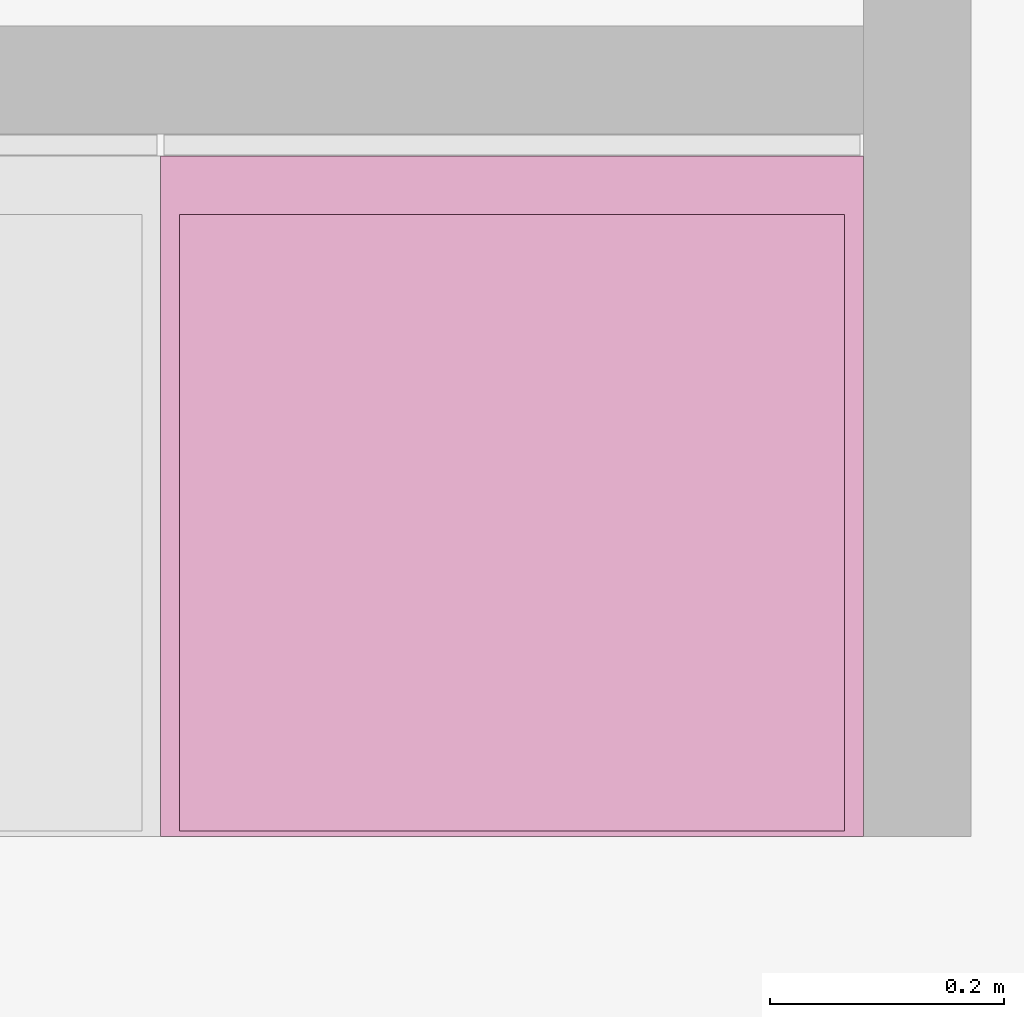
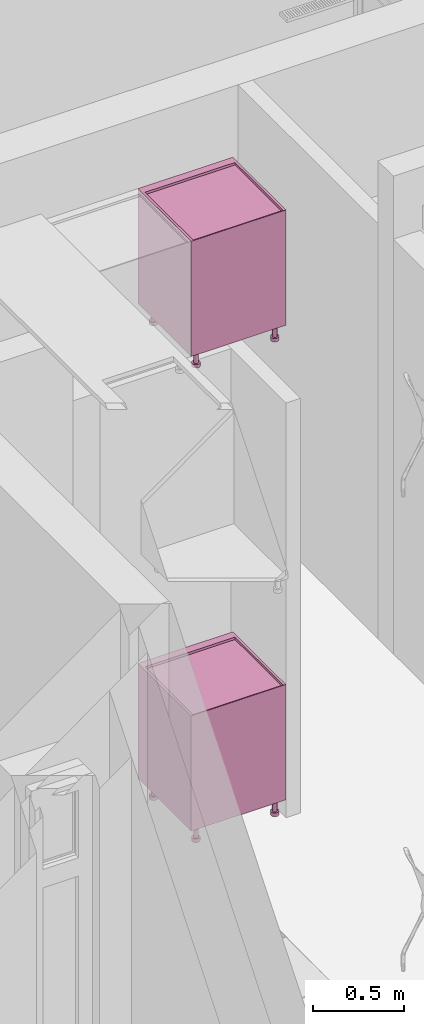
# One storey, part 61 of 125: 2 furnishings.
"""IFC2X3 building model written with IfcOpenShell, lengths in millimetres."""

from ifc_helpers import new_model, entity, si_unit, converted_unit, direction, frame, origin, place, context, subcontext, project, spatial, faceted_brep, source, transform, mapped, material, type_object, type_shapes, element, save


model = new_model("IFC2X3")

# Units and contexts
model_context = context("Model", 3, precision=0.01, world=origin(), true_north=direction((6.123233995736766e-17, 1.0)))
plan_context = context("Plan", 3, precision=0.01, world=origin(), true_north=direction((6.123233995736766e-17, 1.0)))
body_context = subcontext(model_context, "Body", "Model", "MODEL_VIEW")
ifc_project = project(units=[si_unit("LENGTHUNIT", "METRE", prefix="MILLI"), converted_unit("PLANEANGLEUNIT", "DEGREE", entity("IfcPlaneAngleMeasure", 0.017453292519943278), si_unit("PLANEANGLEUNIT", "RADIAN"), dimensions=[0, 0, 0, 0, 0, 0, 0]), si_unit("AREAUNIT", "SQUARE_METRE")], contexts=[model_context, plan_context])

# Site, building, storey, space
site_placement = place(None, origin())
site = spatial("IfcSite", under=ifc_project, at=site_placement, Name="Default", CompositionType="ELEMENT")
building_placement = place(site_placement, origin())
building = spatial("IfcBuilding", under=site, at=building_placement, CompositionType="ELEMENT")
storey_placement = place(building_placement, frame((0.0, 0.0, 3125.0)))
storey = spatial("IfcBuildingStorey", under=building, at=storey_placement, Name="2K", CompositionType="ELEMENT", Elevation=3125.0)
space_placement = place(storey_placement, origin())
space = spatial("IfcSpace", under=storey, at=space_placement, Name="2-4.2", CompositionType="ELEMENT", InteriorOrExteriorSpace="INTERNAL")

# Furnishings
ifc_material = material(Name="<Unnamed>")
furniture_type = type_object("IfcFurnitureType", Name="HR_Casework_Kitchen_Generic_Appliance_v1:Fridge", AssemblyPlace="NOTDEFINED", material=ifc_material)
shared_shape = source(origin(), body_context, "Body", "Brep", [
    faceted_brep([(305.7003264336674, -585.7846096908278, -3101.0), (310.6708891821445, -581.9705627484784, -3101.0), (300.70032643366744, -577.1243556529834, -3101.0), (297.32379306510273, -578.5229615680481, -3101.0), (299.91198351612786, -588.1822198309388, -3101.0), (303.59982137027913, -574.8994949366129, -3101.0), (314.4849361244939, -577.0, -3101.0), (305.82468208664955, -572.0, -3101.0), (307.2232880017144, -568.6234666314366, -3101.0), (316.8825462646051, -571.2116570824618, -3101.0), (307.70032643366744, -565.0, -3101.0), (317.7003264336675, -565.0, -3101.0), (307.2232880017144, -561.3765333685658, -3101.0), (316.88254626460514, -558.7883429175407, -3101.0), (305.82468208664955, -558.0, -3101.0), (314.484936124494, -553.0, -3101.0), (303.59982137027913, -555.1005050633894, -3101.0), (310.67088918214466, -548.0294372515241, -3101.0), (300.70032643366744, -552.875644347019, -3101.0), (305.7003264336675, -544.2153903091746, -3101.0), (297.32379306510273, -551.4770384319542, -3101.0), (299.91198351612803, -541.8177801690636, -3101.0), (293.7003264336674, -551.0, -3101.0), (293.70032643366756, -541.0, -3101.0), (290.07685980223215, -551.4770384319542, -3101.0), (287.488669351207, -541.8177801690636, -3101.0), (286.70032643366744, -552.875644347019, -3101.0), (281.7003264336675, -544.2153903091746, -3101.0), (283.80083149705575, -555.1005050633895, -3101.0), (276.7297636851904, -548.029437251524, -3101.0), (281.5759707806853, -558.0, -3101.0), (272.91571674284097, -553.0, -3101.0), (270.51810660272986, -558.7883429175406, -3101.0), (280.1773648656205, -561.3765333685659, -3101.0), (269.7003264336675, -565.0, -3101.0), (279.7003264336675, -565.0, -3101.0), (270.51810660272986, -571.2116570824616, -3101.0), (280.1773648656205, -568.6234666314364, -3101.0), (272.9157167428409, -577.0, -3101.0), (281.57597078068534, -572.0, -3101.0), (276.7297636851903, -581.9705627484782, -3101.0), (283.80083149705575, -574.8994949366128, -3101.0), (281.70032643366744, -585.7846096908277, -3101.0), (286.70032643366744, -577.1243556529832, -3101.0), (287.4886693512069, -588.1822198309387, -3101.0), (290.07685980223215, -578.5229615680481, -3101.0), (293.7003264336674, -589.0, -3101.0), (293.70032643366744, -579.0, -3101.0), (299.91198351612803, -541.8177801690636, -3125.0), (305.7003264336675, -544.2153903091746, -3125.0), (310.67088918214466, -548.0294372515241, -3125.0), (314.484936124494, -553.0, -3125.0), (316.88254626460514, -558.7883429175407, -3125.0), (317.7003264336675, -565.0, -3125.0), (316.8825462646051, -571.2116570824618, -3125.0), (314.4849361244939, -577.0, -3125.0), (310.6708891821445, -581.9705627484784, -3125.0), (305.7003264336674, -585.7846096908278, -3125.0), (299.91198351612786, -588.1822198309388, -3125.0), (293.7003264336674, -589.0, -3125.0), (287.4886693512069, -588.1822198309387, -3125.0), (281.70032643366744, -585.7846096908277, -3125.0), (276.7297636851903, -581.9705627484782, -3125.0), (272.9157167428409, -577.0, -3125.0), (270.51810660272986, -571.2116570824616, -3125.0), (269.7003264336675, -565.0, -3125.0), (270.51810660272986, -558.7883429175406, -3125.0), (272.91571674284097, -553.0, -3125.0), (276.7297636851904, -548.029437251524, -3125.0), (281.7003264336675, -544.2153903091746, -3125.0), (287.488669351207, -541.8177801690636, -3125.0), (293.70032643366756, -541.0, -3125.0), (297.32379306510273, -578.5229615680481, -3025.0), (300.70032643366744, -577.1243556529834, -3025.0), (303.59982137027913, -574.8994949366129, -3025.0), (305.8246820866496, -572.0, -3025.0), (307.2232880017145, -568.6234666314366, -3025.0), (307.70032643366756, -565.0, -3025.0), (307.2232880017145, -561.3765333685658, -3025.0), (305.8246820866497, -558.0, -3025.0), (303.5998213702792, -555.1005050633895, -3025.0), (300.70032643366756, -552.875644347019, -3025.0), (297.32379306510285, -551.4770384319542, -3025.0), (293.70032643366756, -551.0, -3025.0), (290.07685980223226, -551.4770384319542, -3025.0), (286.70032643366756, -552.875644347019, -3025.0), (283.80083149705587, -555.1005050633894, -3025.0), (281.5759707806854, -558.0, -3025.0), (280.1773648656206, -561.3765333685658, -3025.0), (279.70032643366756, -565.0, -3025.0), (280.1773648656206, -568.6234666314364, -3025.0), (281.5759707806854, -572.0, -3025.0), (283.8008314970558, -574.8994949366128, -3025.0), (286.7003264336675, -577.1243556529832, -3025.0), (290.07685980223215, -578.5229615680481, -3025.0), (293.70032643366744, -579.0, -3025.0)], [[[0, 1, 2]], [[0, 2, 3]], [[3, 4, 0]], [[2, 1, 5]], [[6, 5, 1]], [[7, 5, 6]], [[8, 7, 6]], [[8, 6, 9]], [[8, 9, 10]], [[10, 9, 11]], [[12, 10, 11]], [[12, 11, 13]], [[14, 12, 13]], [[14, 13, 15]], [[16, 14, 15]], [[15, 17, 16]], [[17, 18, 16]], [[18, 17, 19]], [[18, 19, 20]], [[21, 20, 19]], [[20, 21, 22]], [[22, 21, 23]], [[23, 24, 22]], [[24, 23, 25]], [[24, 25, 26]], [[27, 26, 25]], [[27, 28, 26]], [[27, 29, 28]], [[30, 28, 29]], [[31, 30, 29]], [[32, 30, 31]], [[33, 30, 32]], [[33, 32, 34]], [[34, 35, 33]], [[36, 35, 34]], [[36, 37, 35]], [[37, 36, 38]], [[39, 37, 38]], [[39, 38, 40]], [[39, 40, 41]], [[40, 42, 41]], [[41, 42, 43]], [[43, 42, 44]], [[44, 45, 43]], [[46, 45, 44]], [[4, 47, 46]], [[45, 46, 47]], [[4, 3, 47]], [[48, 49, 50, 51, 52, 53, 54, 55, 56, 57, 58, 59, 60, 61, 62, 63, 64, 65, 66, 67, 68, 69, 70, 71]], [[64, 36, 34, 65]], [[63, 38, 36, 64]], [[42, 40, 62, 61]], [[63, 62, 40, 38]], [[44, 42, 61, 60]], [[46, 44, 60, 59]], [[58, 4, 46, 59]], [[57, 0, 4, 58]], [[54, 53, 11, 9]], [[1, 0, 57, 56]], [[6, 55, 54, 9]], [[6, 1, 56, 55]], [[52, 13, 11, 53]], [[51, 15, 13, 52]], [[19, 17, 50, 49]], [[51, 50, 17, 15]], [[21, 19, 49, 48]], [[23, 21, 48, 71]], [[27, 69, 68, 29]], [[31, 67, 66, 32]], [[68, 67, 31, 29]], [[32, 66, 65, 34]], [[25, 70, 69, 27]], [[70, 25, 23, 71]], [[72, 73, 74, 75, 76, 77, 78, 79, 80, 81, 82, 83, 84, 85, 86, 87, 88, 89, 90, 91, 92, 93, 94, 95]], [[37, 39, 91, 90]], [[35, 37, 90, 89]], [[43, 45, 94, 93]], [[41, 43, 93, 92]], [[39, 41, 92, 91]], [[47, 95, 94, 45]], [[2, 5, 74, 73]], [[3, 2, 73, 72]], [[8, 10, 77, 76]], [[7, 8, 76, 75]], [[5, 7, 75, 74]], [[3, 72, 95, 47]], [[79, 78, 12, 14]], [[78, 77, 10, 12]], [[80, 16, 18, 81]], [[16, 80, 79, 14]], [[81, 18, 20, 82]], [[22, 83, 82, 20]], [[26, 28, 86, 85]], [[24, 26, 85, 84]], [[33, 35, 89, 88]], [[30, 33, 88, 87]], [[28, 30, 87, 86]], [[24, 84, 83, 22]]]),
    faceted_brep([(-192.29967356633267, -585.7846096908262, -3101.0), (-187.3291108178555, -581.9705627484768, -3101.0), (-197.29967356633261, -577.1243556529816, -3101.0), (-200.67620693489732, -578.5229615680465, -3101.0), (-198.08801648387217, -588.1822198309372, -3101.0), (-194.40017862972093, -574.8994949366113, -3101.0), (-183.51506387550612, -577.0, -3101.0), (-192.17531791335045, -572.0, -3101.0), (-190.77671199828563, -568.6234666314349, -3101.0), (-181.11745373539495, -571.2116570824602, -3101.0), (-190.29967356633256, -565.0, -3101.0), (-180.29967356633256, -565.0, -3101.0), (-190.77671199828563, -561.3765333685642, -3101.0), (-181.11745373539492, -558.788342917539, -3101.0), (-192.17531791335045, -558.0, -3101.0), (-183.515063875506, -553.0, -3101.0), (-194.40017862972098, -555.1005050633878, -3101.0), (-187.3291108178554, -548.0294372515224, -3101.0), (-197.29967356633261, -552.8756443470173, -3101.0), (-192.29967356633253, -544.215390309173, -3101.0), (-200.67620693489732, -551.4770384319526, -3101.0), (-198.08801648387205, -541.8177801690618, -3101.0), (-204.29967356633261, -551.0, -3101.0), (-204.29967356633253, -541.0, -3101.0), (-207.92314019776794, -551.4770384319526, -3101.0), (-210.51133064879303, -541.8177801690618, -3101.0), (-211.29967356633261, -552.8756443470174, -3101.0), (-216.29967356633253, -544.215390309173, -3101.0), (-214.19916850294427, -555.1005050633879, -3101.0), (-221.27023631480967, -548.0294372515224, -3101.0), (-216.42402921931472, -558.0, -3101.0), (-225.08428325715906, -553.0, -3101.0), (-227.48189339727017, -558.788342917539, -3101.0), (-217.8226351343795, -561.3765333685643, -3101.0), (-228.2996735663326, -565.0, -3101.0), (-218.29967356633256, -565.0, -3101.0), (-227.48189339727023, -571.21165708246, -3101.0), (-217.8226351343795, -568.6234666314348, -3101.0), (-225.08428325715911, -577.0, -3101.0), (-216.42402921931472, -572.0, -3101.0), (-221.27023631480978, -581.9705627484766, -3101.0), (-214.19916850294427, -574.8994949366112, -3101.0), (-216.29967356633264, -585.784609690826, -3101.0), (-211.29967356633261, -577.1243556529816, -3101.0), (-210.51133064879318, -588.1822198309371, -3101.0), (-207.9231401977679, -578.5229615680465, -3101.0), (-204.2996735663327, -589.0, -3101.0), (-204.29967356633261, -579.0, -3101.0), (-198.08801648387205, -541.8177801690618, -3125.0), (-192.29967356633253, -544.215390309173, -3125.0), (-187.3291108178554, -548.0294372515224, -3125.0), (-183.515063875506, -553.0, -3125.0), (-181.11745373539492, -558.788342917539, -3125.0), (-180.29967356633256, -565.0, -3125.0), (-181.11745373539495, -571.2116570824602, -3125.0), (-183.51506387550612, -577.0, -3125.0), (-187.3291108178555, -581.9705627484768, -3125.0), (-192.29967356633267, -585.7846096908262, -3125.0), (-198.08801648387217, -588.1822198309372, -3125.0), (-204.2996735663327, -589.0, -3125.0), (-210.51133064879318, -588.1822198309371, -3125.0), (-216.29967356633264, -585.784609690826, -3125.0), (-221.27023631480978, -581.9705627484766, -3125.0), (-225.08428325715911, -577.0, -3125.0), (-227.48189339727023, -571.21165708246, -3125.0), (-228.2996735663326, -565.0, -3125.0), (-227.48189339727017, -558.788342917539, -3125.0), (-225.08428325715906, -553.0, -3125.0), (-221.27023631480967, -548.0294372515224, -3125.0), (-216.29967356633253, -544.215390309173, -3125.0), (-210.51133064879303, -541.8177801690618, -3125.0), (-204.29967356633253, -541.0, -3125.0), (-200.67620693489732, -578.5229615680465, -3025.0), (-197.29967356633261, -577.1243556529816, -3025.0), (-194.40017862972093, -574.8994949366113, -3025.0), (-192.17531791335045, -572.0, -3025.0), (-190.77671199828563, -568.6234666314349, -3025.0), (-190.29967356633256, -565.0, -3025.0), (-190.77671199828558, -561.3765333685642, -3025.0), (-192.1753179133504, -558.0, -3025.0), (-194.40017862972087, -555.1005050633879, -3025.0), (-197.29967356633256, -552.8756443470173, -3025.0), (-200.67620693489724, -551.4770384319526, -3025.0), (-204.29967356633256, -551.0, -3025.0), (-207.92314019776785, -551.4770384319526, -3025.0), (-211.29967356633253, -552.8756443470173, -3025.0), (-214.1991685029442, -555.1005050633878, -3025.0), (-216.4240292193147, -558.0, -3025.0), (-217.8226351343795, -561.3765333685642, -3025.0), (-218.29967356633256, -565.0, -3025.0), (-217.8226351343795, -568.6234666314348, -3025.0), (-216.42402921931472, -572.0, -3025.0), (-214.19916850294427, -574.8994949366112, -3025.0), (-211.2996735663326, -577.1243556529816, -3025.0), (-207.9231401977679, -578.5229615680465, -3025.0), (-204.29967356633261, -579.0, -3025.0)], [[[0, 1, 2]], [[0, 2, 3]], [[3, 4, 0]], [[2, 1, 5]], [[6, 5, 1]], [[7, 5, 6]], [[8, 7, 6]], [[8, 6, 9]], [[8, 9, 10]], [[10, 9, 11]], [[12, 10, 11]], [[12, 11, 13]], [[14, 12, 13]], [[14, 13, 15]], [[16, 14, 15]], [[15, 17, 16]], [[17, 18, 16]], [[18, 17, 19]], [[18, 19, 20]], [[21, 20, 19]], [[20, 21, 22]], [[22, 21, 23]], [[23, 24, 22]], [[24, 23, 25]], [[24, 25, 26]], [[27, 26, 25]], [[27, 28, 26]], [[27, 29, 28]], [[30, 28, 29]], [[31, 30, 29]], [[32, 30, 31]], [[33, 30, 32]], [[33, 32, 34]], [[34, 35, 33]], [[36, 35, 34]], [[36, 37, 35]], [[37, 36, 38]], [[39, 37, 38]], [[39, 38, 40]], [[39, 40, 41]], [[40, 42, 41]], [[41, 42, 43]], [[43, 42, 44]], [[44, 45, 43]], [[46, 45, 44]], [[4, 47, 46]], [[45, 46, 47]], [[4, 3, 47]], [[48, 49, 50, 51, 52, 53, 54, 55, 56, 57, 58, 59, 60, 61, 62, 63, 64, 65, 66, 67, 68, 69, 70, 71]], [[64, 36, 34, 65]], [[63, 38, 36, 64]], [[42, 40, 62, 61]], [[63, 62, 40, 38]], [[44, 42, 61, 60]], [[46, 44, 60, 59]], [[58, 4, 46, 59]], [[57, 0, 4, 58]], [[54, 53, 11, 9]], [[1, 0, 57, 56]], [[6, 55, 54, 9]], [[6, 1, 56, 55]], [[52, 13, 11, 53]], [[51, 15, 13, 52]], [[19, 17, 50, 49]], [[51, 50, 17, 15]], [[21, 19, 49, 48]], [[23, 21, 48, 71]], [[27, 69, 68, 29]], [[31, 67, 66, 32]], [[68, 67, 31, 29]], [[32, 66, 65, 34]], [[25, 70, 69, 27]], [[70, 25, 23, 71]], [[72, 73, 74, 75, 76, 77, 78, 79, 80, 81, 82, 83, 84, 85, 86, 87, 88, 89, 90, 91, 92, 93, 94, 95]], [[37, 39, 91, 90]], [[35, 37, 90, 89]], [[43, 45, 94, 93]], [[41, 43, 93, 92]], [[39, 41, 92, 91]], [[47, 95, 94, 45]], [[2, 5, 74, 73]], [[3, 2, 73, 72]], [[8, 10, 77, 76]], [[7, 8, 76, 75]], [[5, 7, 75, 74]], [[3, 72, 95, 47]], [[79, 78, 12, 14]], [[78, 77, 10, 12]], [[80, 16, 18, 81]], [[16, 80, 79, 14]], [[81, 18, 20, 82]], [[22, 83, 82, 20]], [[26, 28, 86, 85]], [[24, 26, 85, 84]], [[33, 35, 89, 88]], [[30, 33, 88, 87]], [[28, 30, 87, 86]], [[24, 84, 83, 22]]]),
    faceted_brep([(305.70032643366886, -120.78460969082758, -3101.0), (310.670889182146, -116.97056274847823, -3101.0), (300.7003264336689, -112.12435565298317, -3101.0), (297.3237930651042, -113.52296156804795, -3101.0), (299.91198351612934, -123.18221983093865, -3101.0), (303.5998213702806, -109.8994949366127, -3101.0), (314.48493612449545, -112.0, -3101.0), (305.824682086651, -107.0, -3101.0), (307.2232880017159, -103.62346663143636, -3101.0), (316.88254626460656, -106.21165708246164, -3101.0), (307.700326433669, -100.0, -3101.0), (317.700326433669, -100.0, -3101.0), (307.2232880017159, -96.3765333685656, -3101.0), (316.8825462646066, -93.78834291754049, -3101.0), (305.824682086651, -93.0, -3101.0), (314.4849361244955, -88.0, -3101.0), (303.5998213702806, -90.10050506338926, -3101.0), (310.67088918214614, -83.02943725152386, -3101.0), (300.7003264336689, -87.8756443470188, -3101.0), (305.700326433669, -79.21539030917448, -3101.0), (297.3237930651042, -86.477038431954, -3101.0), (299.9119835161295, -76.81778016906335, -3101.0), (293.70032643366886, -86.0, -3101.0), (293.70032643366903, -76.0, -3101.0), (290.0768598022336, -86.47703843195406, -3101.0), (287.4886693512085, -76.81778016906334, -3101.0), (286.7003264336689, -87.87564434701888, -3101.0), (281.700326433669, -79.21539030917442, -3101.0), (283.8008314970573, -90.10050506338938, -3101.0), (276.72976368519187, -83.0294372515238, -3101.0), (281.5759707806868, -93.0, -3101.0), (272.91571674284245, -88.0, -3101.0), (270.51810660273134, -93.78834291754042, -3101.0), (280.177364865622, -96.37653336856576, -3101.0), (269.700326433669, -100.0, -3101.0), (279.700326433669, -100.0, -3101.0), (270.51810660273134, -106.2116570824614, -3101.0), (280.177364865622, -103.62346663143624, -3101.0), (272.9157167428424, -112.0, -3101.0), (281.5759707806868, -107.0, -3101.0), (276.72976368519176, -116.97056274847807, -3101.0), (283.8008314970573, -109.89949493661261, -3101.0), (281.7003264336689, -120.78460969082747, -3101.0), (286.7003264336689, -112.1243556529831, -3101.0), (287.4886693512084, -123.1822198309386, -3101.0), (290.0768598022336, -113.52296156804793, -3101.0), (293.70032643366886, -124.0, -3101.0), (293.7003264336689, -114.0, -3101.0), (299.9119835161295, -76.81778016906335, -3125.0), (305.700326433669, -79.21539030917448, -3125.0), (310.67088918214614, -83.02943725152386, -3125.0), (314.4849361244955, -88.0, -3125.0), (316.8825462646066, -93.78834291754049, -3125.0), (317.700326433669, -100.0, -3125.0), (316.88254626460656, -106.21165708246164, -3125.0), (314.48493612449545, -112.0, -3125.0), (310.670889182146, -116.97056274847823, -3125.0), (305.70032643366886, -120.78460969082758, -3125.0), (299.91198351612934, -123.18221983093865, -3125.0), (293.70032643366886, -124.0, -3125.0), (287.4886693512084, -123.1822198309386, -3125.0), (281.7003264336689, -120.78460969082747, -3125.0), (276.72976368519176, -116.97056274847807, -3125.0), (272.9157167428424, -112.0, -3125.0), (270.51810660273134, -106.2116570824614, -3125.0), (269.700326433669, -100.0, -3125.0), (270.51810660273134, -93.78834291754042, -3125.0), (272.91571674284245, -88.0, -3125.0), (276.72976368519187, -83.0294372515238, -3125.0), (281.700326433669, -79.21539030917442, -3125.0), (287.4886693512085, -76.81778016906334, -3125.0), (293.70032643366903, -76.0, -3125.0), (297.32379306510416, -113.52296156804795, -3025.0), (300.70032643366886, -112.12435565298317, -3025.0), (303.59982137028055, -109.8994949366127, -3025.0), (305.824682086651, -107.0, -3025.0), (307.22328800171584, -103.62346663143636, -3025.0), (307.700326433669, -100.0, -3025.0), (307.2232880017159, -96.3765333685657, -3025.0), (305.82468208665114, -93.0, -3025.0), (303.5998213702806, -90.10050506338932, -3025.0), (300.700326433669, -87.87564434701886, -3025.0), (297.32379306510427, -86.47703843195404, -3025.0), (293.700326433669, -86.0, -3025.0), (290.0768598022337, -86.47703843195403, -3025.0), (286.700326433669, -87.87564434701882, -3025.0), (283.8008314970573, -90.1005050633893, -3025.0), (281.5759707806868, -93.0, -3025.0), (280.177364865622, -96.37653336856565, -3025.0), (279.700326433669, -100.0, -3025.0), (280.177364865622, -103.62346663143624, -3025.0), (281.5759707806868, -107.0, -3025.0), (283.80083149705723, -109.89949493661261, -3025.0), (286.7003264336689, -112.1243556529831, -3025.0), (290.07685980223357, -113.52296156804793, -3025.0), (293.70032643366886, -114.0, -3025.0)], [[[0, 1, 2]], [[0, 2, 3]], [[3, 4, 0]], [[2, 1, 5]], [[6, 5, 1]], [[7, 5, 6]], [[8, 7, 6]], [[8, 6, 9]], [[8, 9, 10]], [[10, 9, 11]], [[12, 10, 11]], [[12, 11, 13]], [[14, 12, 13]], [[14, 13, 15]], [[16, 14, 15]], [[15, 17, 16]], [[17, 18, 16]], [[18, 17, 19]], [[18, 19, 20]], [[21, 20, 19]], [[20, 21, 22]], [[22, 21, 23]], [[23, 24, 22]], [[24, 23, 25]], [[24, 25, 26]], [[27, 26, 25]], [[27, 28, 26]], [[27, 29, 28]], [[30, 28, 29]], [[31, 30, 29]], [[32, 30, 31]], [[33, 30, 32]], [[33, 32, 34]], [[34, 35, 33]], [[36, 35, 34]], [[36, 37, 35]], [[37, 36, 38]], [[39, 37, 38]], [[39, 38, 40]], [[39, 40, 41]], [[40, 42, 41]], [[41, 42, 43]], [[43, 42, 44]], [[44, 45, 43]], [[46, 45, 44]], [[4, 47, 46]], [[45, 46, 47]], [[4, 3, 47]], [[48, 49, 50, 51, 52, 53, 54, 55, 56, 57, 58, 59, 60, 61, 62, 63, 64, 65, 66, 67, 68, 69, 70, 71]], [[64, 36, 34, 65]], [[63, 38, 36, 64]], [[42, 40, 62, 61]], [[63, 62, 40, 38]], [[44, 42, 61, 60]], [[46, 44, 60, 59]], [[58, 4, 46, 59]], [[57, 0, 4, 58]], [[54, 53, 11, 9]], [[1, 0, 57, 56]], [[6, 55, 54, 9]], [[6, 1, 56, 55]], [[52, 13, 11, 53]], [[51, 15, 13, 52]], [[19, 17, 50, 49]], [[51, 50, 17, 15]], [[21, 19, 49, 48]], [[23, 21, 48, 71]], [[27, 69, 68, 29]], [[31, 67, 66, 32]], [[68, 67, 31, 29]], [[32, 66, 65, 34]], [[25, 70, 69, 27]], [[70, 25, 23, 71]], [[72, 73, 74, 75, 76, 77, 78, 79, 80, 81, 82, 83, 84, 85, 86, 87, 88, 89, 90, 91, 92, 93, 94, 95]], [[37, 39, 91, 90]], [[35, 37, 90, 89]], [[43, 45, 94, 93]], [[41, 43, 93, 92]], [[39, 41, 92, 91]], [[47, 95, 94, 45]], [[2, 5, 74, 73]], [[3, 2, 73, 72]], [[8, 10, 77, 76]], [[7, 8, 76, 75]], [[5, 7, 75, 74]], [[3, 72, 95, 47]], [[79, 78, 12, 14]], [[78, 77, 10, 12]], [[80, 16, 18, 81]], [[16, 80, 79, 14]], [[81, 18, 20, 82]], [[22, 83, 82, 20]], [[26, 28, 86, 85]], [[24, 26, 85, 84]], [[33, 35, 89, 88]], [[30, 33, 88, 87]], [[28, 30, 87, 86]], [[24, 84, 83, 22]]]),
    faceted_brep([(-192.299673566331, -120.78460969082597, -3101.0), (-187.3291108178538, -116.97056274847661, -3101.0), (-197.29967356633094, -112.12435565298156, -3101.0), (-200.67620693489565, -113.52296156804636, -3101.0), (-198.0880164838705, -123.18221983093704, -3101.0), (-194.40017862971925, -109.89949493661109, -3101.0), (-183.5150638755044, -112.0, -3101.0), (-192.17531791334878, -107.0, -3101.0), (-190.77671199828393, -103.62346663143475, -3101.0), (-181.11745373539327, -106.21165708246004, -3101.0), (-190.29967356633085, -100.0, -3101.0), (-180.29967356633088, -100.0, -3101.0), (-190.77671199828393, -96.376533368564, -3101.0), (-181.11745373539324, -93.78834291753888, -3101.0), (-192.17531791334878, -93.0, -3101.0), (-183.51506387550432, -88.0, -3101.0), (-194.40017862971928, -90.10050506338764, -3101.0), (-187.32911081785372, -83.02943725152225, -3101.0), (-197.29967356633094, -87.8756443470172, -3101.0), (-192.29967356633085, -79.21539030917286, -3101.0), (-200.67620693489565, -86.4770384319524, -3101.0), (-198.08801648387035, -76.81778016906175, -3101.0), (-204.29967356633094, -86.0, -3101.0), (-204.29967356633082, -76.0, -3101.0), (-207.92314019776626, -86.47703843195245, -3101.0), (-210.51133064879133, -76.81778016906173, -3101.0), (-211.29967356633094, -87.87564434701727, -3101.0), (-216.29967356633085, -79.21539030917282, -3101.0), (-214.19916850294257, -90.10050506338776, -3101.0), (-221.270236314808, -83.0294372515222, -3101.0), (-216.424029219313, -93.0, -3101.0), (-225.08428325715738, -88.0, -3101.0), (-227.4818933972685, -93.78834291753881, -3101.0), (-217.82263513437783, -96.37653336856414, -3101.0), (-228.29967356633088, -100.0, -3101.0), (-218.29967356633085, -100.0, -3101.0), (-227.48189339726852, -106.2116570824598, -3101.0), (-217.82263513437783, -103.62346663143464, -3101.0), (-225.08428325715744, -112.0, -3101.0), (-216.424029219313, -107.0, -3101.0), (-221.27023631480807, -116.97056274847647, -3101.0), (-214.19916850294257, -109.899494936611, -3101.0), (-216.29967356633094, -120.78460969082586, -3101.0), (-211.29967356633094, -112.12435565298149, -3101.0), (-210.51133064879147, -123.18221983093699, -3101.0), (-207.9231401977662, -113.52296156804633, -3101.0), (-204.299673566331, -124.0, -3101.0), (-204.29967356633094, -114.0, -3101.0), (-198.08801648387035, -76.81778016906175, -3125.0), (-192.29967356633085, -79.21539030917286, -3125.0), (-187.32911081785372, -83.02943725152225, -3125.0), (-183.51506387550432, -88.0, -3125.0), (-181.11745373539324, -93.78834291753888, -3125.0), (-180.29967356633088, -100.0, -3125.0), (-181.11745373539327, -106.21165708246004, -3125.0), (-183.5150638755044, -112.0, -3125.0), (-187.3291108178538, -116.97056274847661, -3125.0), (-192.299673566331, -120.78460969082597, -3125.0), (-198.0880164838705, -123.18221983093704, -3125.0), (-204.299673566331, -124.0, -3125.0), (-210.51133064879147, -123.18221983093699, -3125.0), (-216.29967356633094, -120.78460969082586, -3125.0), (-221.27023631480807, -116.97056274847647, -3125.0), (-225.08428325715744, -112.0, -3125.0), (-227.48189339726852, -106.2116570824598, -3125.0), (-228.29967356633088, -100.0, -3125.0), (-227.4818933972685, -93.78834291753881, -3125.0), (-225.08428325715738, -88.0, -3125.0), (-221.270236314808, -83.0294372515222, -3125.0), (-216.29967356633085, -79.21539030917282, -3125.0), (-210.51133064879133, -76.81778016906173, -3125.0), (-204.29967356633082, -76.0, -3125.0), (-200.67620693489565, -113.52296156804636, -3025.0), (-197.29967356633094, -112.12435565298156, -3025.0), (-194.40017862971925, -109.89949493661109, -3025.0), (-192.17531791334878, -107.0, -3025.0), (-190.77671199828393, -103.62346663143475, -3025.0), (-190.29967356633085, -100.0, -3025.0), (-190.7767119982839, -96.3765333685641, -3025.0), (-192.1753179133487, -93.0, -3025.0), (-194.4001786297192, -90.10050506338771, -3025.0), (-197.29967356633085, -87.87564434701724, -3025.0), (-200.67620693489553, -86.47703843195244, -3025.0), (-204.29967356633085, -86.0, -3025.0), (-207.92314019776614, -86.47703843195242, -3025.0), (-211.29967356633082, -87.87564434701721, -3025.0), (-214.1991685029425, -90.10050506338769, -3025.0), (-216.42402921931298, -93.0, -3025.0), (-217.82263513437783, -96.37653336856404, -3025.0), (-218.29967356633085, -100.0, -3025.0), (-217.82263513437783, -103.62346663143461, -3025.0), (-216.424029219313, -107.0, -3025.0), (-214.19916850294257, -109.899494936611, -3025.0), (-211.29967356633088, -112.12435565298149, -3025.0), (-207.9231401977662, -113.52296156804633, -3025.0), (-204.29967356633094, -114.0, -3025.0)], [[[0, 1, 2]], [[0, 2, 3]], [[3, 4, 0]], [[2, 1, 5]], [[6, 5, 1]], [[7, 5, 6]], [[8, 7, 6]], [[8, 6, 9]], [[8, 9, 10]], [[10, 9, 11]], [[12, 10, 11]], [[12, 11, 13]], [[14, 12, 13]], [[14, 13, 15]], [[16, 14, 15]], [[15, 17, 16]], [[17, 18, 16]], [[18, 17, 19]], [[18, 19, 20]], [[21, 20, 19]], [[20, 21, 22]], [[22, 21, 23]], [[23, 24, 22]], [[24, 23, 25]], [[24, 25, 26]], [[27, 26, 25]], [[27, 28, 26]], [[27, 29, 28]], [[30, 28, 29]], [[31, 30, 29]], [[32, 30, 31]], [[33, 30, 32]], [[33, 32, 34]], [[34, 35, 33]], [[36, 35, 34]], [[36, 37, 35]], [[37, 36, 38]], [[39, 37, 38]], [[39, 38, 40]], [[39, 40, 41]], [[40, 42, 41]], [[41, 42, 43]], [[43, 42, 44]], [[44, 45, 43]], [[46, 45, 44]], [[4, 47, 46]], [[45, 46, 47]], [[4, 3, 47]], [[48, 49, 50, 51, 52, 53, 54, 55, 56, 57, 58, 59, 60, 61, 62, 63, 64, 65, 66, 67, 68, 69, 70, 71]], [[64, 36, 34, 65]], [[63, 38, 36, 64]], [[42, 40, 62, 61]], [[63, 62, 40, 38]], [[44, 42, 61, 60]], [[46, 44, 60, 59]], [[58, 4, 46, 59]], [[57, 0, 4, 58]], [[54, 53, 11, 9]], [[1, 0, 57, 56]], [[6, 55, 54, 9]], [[6, 1, 56, 55]], [[52, 13, 11, 53]], [[51, 15, 13, 52]], [[19, 17, 50, 49]], [[51, 50, 17, 15]], [[21, 19, 49, 48]], [[23, 21, 48, 71]], [[27, 69, 68, 29]], [[31, 67, 66, 32]], [[68, 67, 31, 29]], [[32, 66, 65, 34]], [[25, 70, 69, 27]], [[70, 25, 23, 71]], [[72, 73, 74, 75, 76, 77, 78, 79, 80, 81, 82, 83, 84, 85, 86, 87, 88, 89, 90, 91, 92, 93, 94, 95]], [[37, 39, 91, 90]], [[35, 37, 90, 89]], [[43, 45, 94, 93]], [[41, 43, 93, 92]], [[39, 41, 92, 91]], [[47, 95, 94, 45]], [[2, 5, 74, 73]], [[3, 2, 73, 72]], [[8, 10, 77, 76]], [[7, 8, 76, 75]], [[5, 7, 75, 74]], [[3, 72, 95, 47]], [[79, 78, 12, 14]], [[78, 77, 10, 12]], [[80, 16, 18, 81]], [[16, 80, 79, 14]], [[81, 18, 20, 82]], [[22, 83, 82, 20]], [[26, 28, 86, 85]], [[24, 26, 85, 84]], [[33, 35, 89, 88]], [[30, 33, 88, 87]], [[28, 30, 87, 86]], [[24, 84, 83, 22]]]),
    faceted_brep([(328.70032643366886, -19.0, -3009.0), (-239.2996735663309, -19.0, -3009.0), (-239.29967356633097, -595.0, -3009.0), (328.70032643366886, -595.0, -3009.0), (328.70032643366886, -19.0, -3025.0), (328.70032643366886, -595.0, -3025.0), (-239.29967356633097, -595.0, -3025.0), (-239.29967356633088, -19.0, -3025.0)], [[[0, 1, 2, 3]], [[4, 5, 6, 7]], [[1, 0, 4, 7]], [[2, 1, 7, 6]], [[3, 2, 6, 5]], [[0, 3, 5, 4]]]),
    faceted_brep([(-255.29967356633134, -19.0, -2255.0), (-255.2996735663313, -600.0, -2255.0), (344.7003264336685, -600.0, -2255.0), (344.7003264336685, -19.0, -2255.0), (328.70032643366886, -19.0, -2255.0), (328.70032643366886, -595.0, -2255.0), (-239.2996735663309, -595.0, -2255.0), (-239.2996735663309, -19.0, -2255.0), (-255.29967356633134, -19.0, -3025.0), (-239.2996735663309, -19.0, -3025.0), (-239.29967356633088, -595.0, -3025.0), (328.70032643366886, -595.0, -3025.0), (328.70032643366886, -19.0, -3025.0), (344.7003264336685, -19.0, -3025.0), (344.7003264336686, -600.0, -3025.0), (-255.2996735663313, -600.0, -3025.0)], [[[0, 1, 2, 3, 4, 5, 6, 7]], [[8, 9, 10, 11, 12, 13, 14, 15]], [[1, 0, 8, 15]], [[0, 7, 9, 8]], [[7, 6, 10, 9]], [[5, 4, 12, 11]], [[4, 3, 13, 12]], [[3, 2, 14, 13]], [[2, 1, 15, 14]], [[6, 5, 11, 10]]]),
    faceted_brep([(328.70032643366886, -69.0, -2255.0), (328.70032643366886, -19.0, -2255.0), (-239.29967356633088, -19.0, -2255.0), (-239.29967356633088, -69.0, -2255.0), (328.70032643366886, -69.0, -2271.0), (-239.29967356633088, -69.0, -2271.0), (-239.29967356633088, -19.0, -2271.0), (328.70032643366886, -19.0, -2271.0)], [[[0, 1, 2, 3]], [[4, 5, 6, 7]], [[0, 3, 5, 4]], [[3, 2, 6, 5]], [[2, 1, 7, 6]], [[1, 0, 4, 7]]]),
    faceted_brep([(328.7003264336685, -19.0, -2271.0), (-239.29967356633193, -19.0, -2271.0), (-239.2996735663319, -595.0, -2271.0), (328.7003264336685, -595.0, -2271.0), (328.7003264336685, -19.0, -3009.0), (328.7003264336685, -595.0, -3009.0), (-239.2996735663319, -595.0, -3009.0), (-239.2996735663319, -19.0, -3009.0)], [[[0, 1, 2, 3]], [[4, 5, 6, 7]], [[1, 0, 4, 7]], [[2, 1, 7, 6]], [[3, 2, 6, 5]], [[0, 3, 5, 4]]]),
])
type_shapes(furniture_type, [shared_shape])
for number, where, name in (
    (1, (6755.2996735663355, 4240.0, 3125.0), "HR_Casework_Kitchen_Generic_Appliance_v1:Fridge"),
    (2, (6755.2996735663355, 4240.0, 6295.0), "HR_Casework_Kitchen_Generic_Appliance_v1:Fridge"),
):
    element("IfcFurnishingElement", number, at=place(space_placement, frame(where)), inside=space, type_object=furniture_type, material=ifc_material, Name=name, ObjectType="HR_Casework_Kitchen_Generic_Appliance_v1:Fridge", context=body_context, shape_type="MappedRepresentation", body=[
        mapped(shared_shape, transform((0.0, 0.0, 0.0), scale=1.0)),
    ])

save(model, "model.ifc")
